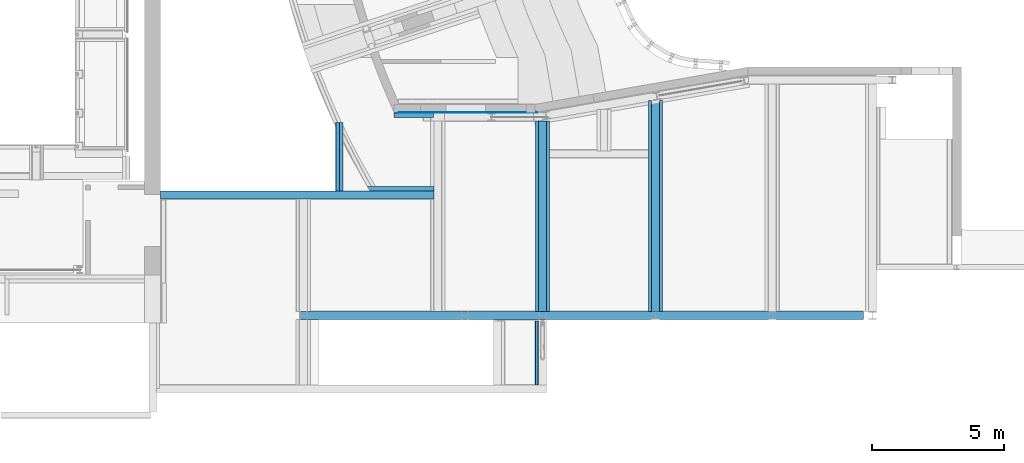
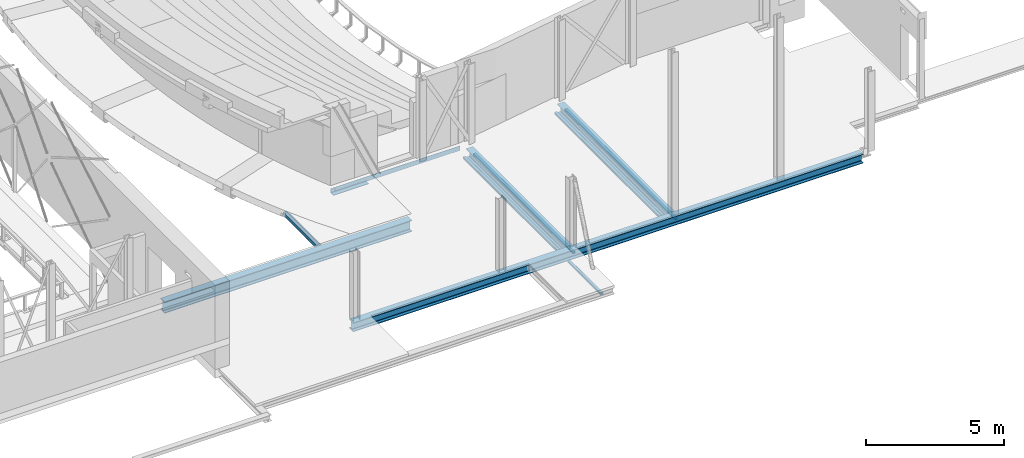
# One storey, part 23 of 68: 12 beams.
"""IFC2X3 building model written with IfcOpenShell, lengths in millimetres."""

import ifcopenshell
import ifcopenshell.guid

model = None  # the IFC model being written
_history = None  # IfcOwnerHistory: only IFC2X3 demands one
_inside = {}  # id of a spatial element -> (the spatial element, [elements in it])
_under = {}  # id of a project, library or spatial element -> (it, [spatial elements below it])
_declared = {}  # id of a project -> (the project, [libraries it declares])
_typed = {}  # id of a type object -> (the type object, [elements of that type])
_made_of = {}  # id of a material, layer set ... -> (it, [elements and type objects made of it])


def new_model(schema):
    """Start an empty IFC model of exactly this schema.

    Asked for "IFC4X3", IfcOpenShell would pick the latest addendum, in which some entities
    have other attributes; the version numbers below select the first issue.
    IFC2X3 requires an IfcOwnerHistory on every rooted entity: one is made here for all.
    """
    global model, _history
    if schema == "IFC4X3":
        model = ifcopenshell.file(schema_version=(4, 3, 0, 0))
    else:
        model = ifcopenshell.file(schema=schema)
    _inside.clear()
    _under.clear()
    _declared.clear()
    _typed.clear()
    _made_of.clear()
    _history = None
    if model.schema == "IFC2X3":
        org = make("IfcOrganization", Name="unknown")
        user = make(
            "IfcPersonAndOrganization",
            ThePerson=make("IfcPerson", FamilyName="unknown"),
            TheOrganization=org,
        )
        app = make(
            "IfcApplication",
            ApplicationDeveloper=org,
            Version="unknown",
            ApplicationFullName="unknown",
            ApplicationIdentifier="unknown",
        )
        _history = make(
            "IfcOwnerHistory",
            OwningUser=user,
            OwningApplication=app,
            ChangeAction="ADDED",
            CreationDate=0,
        )
    return model


def make(cls, **values):
    """One entity of the class cls with the attributes given. An attribute that is None is left unset."""
    return model.create_entity(
        cls, **{name: value for name, value in values.items() if value is not None}
    )


def entity(cls, *values):
    """Any entity or typed value of the class cls, its attributes in the order of the schema. None: left unset."""
    e = model.create_entity(cls)
    for i, value in enumerate(values):
        if value is not None:
            e[i] = value
    return e


def rooted(cls, **values):
    """An entity with a GlobalId (a new one), such as an element, a storey or a relation."""
    return make(cls, GlobalId=ifcopenshell.guid.new(), OwnerHistory=_history, **values)


def si_unit(unit_type, name, prefix=None):
    """IfcSIUnit, for example si_unit("LENGTHUNIT", "METRE", prefix="MILLI")."""
    return make("IfcSIUnit", UnitType=unit_type, Prefix=prefix, Name=name)


def converted_unit(unit_type, name, factor, base, dimensions=None, offset=None):
    """IfcConversionBasedUnit, such as the inch: factor (a typed value) times the base unit."""
    return make(
        "IfcConversionBasedUnit"
        if offset is None
        else "IfcConversionBasedUnitWithOffset",
        ConversionOffset=offset,
        Dimensions=None
        if dimensions is None
        else entity("IfcDimensionalExponents", *dimensions),
        UnitType=unit_type,
        Name=name,
        ConversionFactor=make(
            "IfcMeasureWithUnit", ValueComponent=factor, UnitComponent=base
        ),
    )


def derived_unit(unit_type, elements):
    """IfcDerivedUnit: a product of units, each with its exponent."""
    return make(
        "IfcDerivedUnit",
        Elements=[
            make("IfcDerivedUnitElement", Unit=unit, Exponent=power)
            for unit, power in elements
        ],
        UnitType=unit_type,
    )


def assignment(units):
    """IfcUnitAssignment: the units of a project."""
    return None if units is None else make("IfcUnitAssignment", Units=units)


def point(xyz):
    """IfcCartesianPoint."""
    return None if xyz is None else make("IfcCartesianPoint", Coordinates=xyz)


def direction(xyz):
    """IfcDirection."""
    return None if xyz is None else make("IfcDirection", DirectionRatios=xyz)


def frame(location, z_axis=None, x_axis=None):
    """IfcAxis2Placement3D, a coordinate frame: its origin and axes. An axis left out is left unset."""
    return make(
        "IfcAxis2Placement3D",
        Location=point(location),
        Axis=direction(z_axis),
        RefDirection=direction(x_axis),
    )


def frame_2d(location, x_axis=None):
    """IfcAxis2Placement2D, a coordinate frame in the plane: its origin and x axis."""
    return make(
        "IfcAxis2Placement2D", Location=point(location), RefDirection=direction(x_axis)
    )


def origin():
    """The frame at (0, 0, 0) with its axes left unset."""
    return frame((0.0, 0.0, 0.0))


def origin_2d_with_axis():
    """The frame at (0, 0) in the plane with the x axis (1, 0) written out."""
    return frame_2d((0.0, 0.0), x_axis=(1.0, 0.0))


def place(relative_to, where):
    """IfcLocalPlacement: puts the frame where relative to a parent placement (None: the world)."""
    return make(
        "IfcLocalPlacement", PlacementRelTo=relative_to, RelativePlacement=where
    )


def context(
    kind, dimensions, precision=None, world=None, true_north=None, identifier=None
):
    """IfcGeometricRepresentationContext, for example the 3D "Model" context."""
    return make(
        "IfcGeometricRepresentationContext",
        ContextIdentifier=identifier,
        ContextType=kind,
        CoordinateSpaceDimension=dimensions,
        Precision=precision,
        WorldCoordinateSystem=world,
        TrueNorth=true_north,
    )


def subcontext(parent, identifier, kind, view, scale=None):
    """IfcGeometricRepresentationSubContext, for example "Body" below "Model"."""
    return make(
        "IfcGeometricRepresentationSubContext",
        ContextIdentifier=identifier,
        ContextType=kind,
        ParentContext=parent,
        TargetScale=scale,
        TargetView=view,
    )


def project(units=None, contexts=None):
    """IfcProject with its units and contexts."""
    return rooted(
        "IfcProject",
        Name="project",
        RepresentationContexts=contexts,
        UnitsInContext=assignment(units),
    )


def spatial(cls, under=None, at=None, **own):
    """A site, building, storey or space (cls), placed at a placement, below another one or the project."""
    s = rooted(cls, ObjectPlacement=at, **own)
    if under is not None:
        _under.setdefault(under.id(), (under, []))[1].append(s)
    return s


def polyline(points):
    """IfcPolyline through the points."""
    return make("IfcPolyline", Points=[point(p) for p in points])


def circle_curve(where, radius):
    """IfcCircle in the frame where."""
    return make("IfcCircle", Position=where, Radius=radius)


def parameter(value):
    """IfcParameterValue: where a trimmed curve begins or ends, as a parameter of its basis curve."""
    return model.create_entity("IfcParameterValue", value)


def trimmed(basis, trim1, trim2, sense, master):
    """IfcTrimmedCurve: the piece of a basis curve between two trims."""
    return make(
        "IfcTrimmedCurve",
        BasisCurve=basis,
        Trim1=trim1,
        Trim2=trim2,
        SenseAgreement=sense,
        MasterRepresentation=master,
    )


def segment(curve, same_sense, transition):
    """IfcCompositeCurveSegment."""
    return make(
        "IfcCompositeCurveSegment",
        Transition=transition,
        SameSense=same_sense,
        ParentCurve=curve,
    )


def composite_curve(segments, self_intersect=None):
    """IfcCompositeCurve: segments joined end to end."""
    return make("IfcCompositeCurve", Segments=segments, SelfIntersect=self_intersect)


def profile(cls, at=None, kind="AREA", **sizes):
    """A parametric profile (cls). Its sizes go by their IFC names, for example OverallWidth=200.0."""
    return make(cls, ProfileType=kind, Position=at, **sizes)


def rectangle(**sizes):
    """IfcRectangleProfileDef."""
    return profile("IfcRectangleProfileDef", **sizes)


def i_section(**sizes):
    """IfcIShapeProfileDef."""
    return profile("IfcIShapeProfileDef", **sizes)


def outline(outer, holes=None, kind="AREA"):
    """IfcArbitraryClosedProfileDef: a profile drawn as a closed curve; with holes, ...WithVoids."""
    if holes is None:
        return make("IfcArbitraryClosedProfileDef", ProfileType=kind, OuterCurve=outer)
    return make(
        "IfcArbitraryProfileDefWithVoids",
        ProfileType=kind,
        OuterCurve=outer,
        InnerCurves=holes,
    )


def extrude(swept, where, along, depth):
    """IfcExtrudedAreaSolid: the profile swept, set in the frame where, extruded along a direction by depth."""
    return make(
        "IfcExtrudedAreaSolid",
        SweptArea=swept,
        Position=where,
        ExtrudedDirection=direction(along),
        Depth=depth,
    )


def shape(context_of_items, identifier, shape_type, items):
    """IfcShapeRepresentation: the items that make up one representation, for example the "Body"."""
    return make(
        "IfcShapeRepresentation",
        ContextOfItems=context_of_items,
        RepresentationIdentifier=identifier,
        RepresentationType=shape_type,
        Items=items,
    )


def source(mapping_origin, context_of_items, identifier, shape_type, items):
    """IfcRepresentationMap: a shape defined once, which mapped items show again and again."""
    return make(
        "IfcRepresentationMap",
        MappingOrigin=mapping_origin,
        MappedRepresentation=shape(context_of_items, identifier, shape_type, items),
    )


def transform(
    local_origin,
    x_axis=None,
    y_axis=None,
    z_axis=None,
    scale=None,
    scale2=None,
    scale3=None,
    uniform=True,
):
    """IfcCartesianTransformationOperator3D, or its non-uniform kind. x_axis, y_axis, z_axis: its Axis1, 2, 3."""
    if uniform:
        return make(
            "IfcCartesianTransformationOperator3D",
            Axis1=direction(x_axis),
            Axis2=direction(y_axis),
            LocalOrigin=point(local_origin),
            Scale=scale,
            Axis3=direction(z_axis),
        )
    return make(
        "IfcCartesianTransformationOperator3DnonUniform",
        Axis1=direction(x_axis),
        Axis2=direction(y_axis),
        LocalOrigin=point(local_origin),
        Scale=scale,
        Axis3=direction(z_axis),
        Scale2=scale2,
        Scale3=scale3,
    )


def mapped(mapping_source, mapping_target):
    """IfcMappedItem: shows the shape of a source again, moved by a transform."""
    return make(
        "IfcMappedItem", MappingSource=mapping_source, MappingTarget=mapping_target
    )


def material(Name=None, Category=None):
    """IfcMaterial."""
    return make("IfcMaterial", Name=Name, Category=Category)


def material_list(materials):
    """IfcMaterialList."""
    return make("IfcMaterialList", Materials=materials)


def made_of(thing, what):
    """Note that an element or type object is made of a material, layer set ...; save() writes the relation."""
    if what is not None:
        _made_of.setdefault(what.id(), (what, []))[1].append(thing)
    return thing


def type_object(cls, material=None, **own):
    """A type object (cls), such as IfcWallType, which elements share."""
    return made_of(rooted(cls, **own), material)


def type_shapes(of_type, sources):
    """Give a type object the sources (RepresentationMaps) that its elements show as mapped items."""
    of_type.RepresentationMaps = sources


def element(
    cls,
    number,
    at=None,
    inside=None,
    cuts=None,
    type_object=None,
    material=None,
    context=None,
    identifier="Body",
    shape_type=None,
    held_by="IfcProductDefinitionShape",
    body=None,
    shapes=None,
    **own,
):
    """One element of the class cls, such as IfcWall. Its Tag is "e" and its number.

    at: its placement. inside: the storey or other place that contains it. cuts: it is an
    opening in that element (IfcRelVoidsElement). A single representation is given by context,
    identifier, shape_type and body (its items); several are given by shapes. held_by: the class
    of the entity that holds the representations. save() writes the other relations.
    """
    e = rooted(cls, Tag="e%d" % number, ObjectPlacement=at, **own)
    if body is not None:
        shapes = [shape(context, identifier, shape_type, body)]
    if shapes is not None:
        e.Representation = make(held_by, Representations=shapes)
    if inside is not None:
        _inside.setdefault(inside.id(), (inside, []))[1].append(e)
    if cuts is not None:
        rooted(
            "IfcRelVoidsElement", RelatingBuildingElement=cuts, RelatedOpeningElement=e
        )
    if type_object is not None:
        _typed.setdefault(type_object.id(), (type_object, []))[1].append(e)
    return made_of(e, material)


def aggregate(whole, parts):
    """IfcRelAggregates: a whole, such as a stair, and the parts it consists of."""
    return rooted("IfcRelAggregates", RelatingObject=whole, RelatedObjects=parts)


def save(model, path):
    """Write the relations noted so far, then the file.

    IfcRelAggregates (storeys below a building ...), IfcRelContainedInSpatialStructure (elements
    in a storey), IfcRelDefinesByType, IfcRelAssociatesMaterial and IfcRelDeclares: one each for
    every whole, place, type object, material and project.
    """
    for whole, parts in _under.values():
        aggregate(whole, parts)
    for where, things in _inside.values():
        rooted(
            "IfcRelContainedInSpatialStructure",
            RelatedElements=things,
            RelatingStructure=where,
        )
    for kind, things in _typed.values():
        rooted("IfcRelDefinesByType", RelatedObjects=things, RelatingType=kind)
    for what, things in _made_of.values():
        rooted("IfcRelAssociatesMaterial", RelatedObjects=things, RelatingMaterial=what)
    for by, libraries in _declared.values():
        rooted("IfcRelDeclares", RelatingContext=by, RelatedDefinitions=libraries)
    model.write(path)


model = new_model("IFC2X3")

# Units and contexts
model_context = context("Model", 3, precision=0.01, world=origin(), true_north=direction((6.12303176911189e-17, 1.0)))
body_context = subcontext(model_context, "Body", "Model", "MODEL_VIEW")
ifc_project = project(units=[si_unit("LENGTHUNIT", "METRE", prefix="MILLI"), si_unit("AREAUNIT", "SQUARE_METRE", prefix="MILLI"), si_unit("VOLUMEUNIT", "CUBIC_METRE"), converted_unit("PLANEANGLEUNIT", "DEGREE", entity("IfcRatioMeasure", 0.0174532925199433), si_unit("PLANEANGLEUNIT", "RADIAN"), dimensions=[0, 0, 0, 0, 0, 0, 0]), si_unit("MASSUNIT", "GRAM", prefix="KILO"), derived_unit("MASSDENSITYUNIT", [(si_unit("MASSUNIT", "GRAM", prefix="KILO"), 1), (si_unit("LENGTHUNIT", "METRE"), -3)]), derived_unit("MOMENTOFINERTIAUNIT", [(si_unit("LENGTHUNIT", "METRE"), 4)]), si_unit("TIMEUNIT", "SECOND"), si_unit("FREQUENCYUNIT", "HERTZ"), si_unit("THERMODYNAMICTEMPERATUREUNIT", "DEGREE_CELSIUS"), derived_unit("THERMALTRANSMITTANCEUNIT", [(si_unit("MASSUNIT", "GRAM", prefix="KILO"), 1), (si_unit("THERMODYNAMICTEMPERATUREUNIT", "KELVIN"), -1), (si_unit("TIMEUNIT", "SECOND"), -3)]), derived_unit("VOLUMETRICFLOWRATEUNIT", [(si_unit("LENGTHUNIT", "METRE"), 3), (si_unit("TIMEUNIT", "SECOND"), -1)]), si_unit("ELECTRICCURRENTUNIT", "AMPERE"), si_unit("ELECTRICVOLTAGEUNIT", "VOLT"), si_unit("POWERUNIT", "WATT"), si_unit("FORCEUNIT", "NEWTON", prefix="KILO"), si_unit("ILLUMINANCEUNIT", "LUX"), si_unit("LUMINOUSFLUXUNIT", "LUMEN"), si_unit("LUMINOUSINTENSITYUNIT", "CANDELA"), derived_unit("USERDEFINED", [(si_unit("MASSUNIT", "GRAM", prefix="KILO"), -1), (si_unit("LENGTHUNIT", "METRE"), -2), (si_unit("TIMEUNIT", "SECOND"), 3), (si_unit("LUMINOUSFLUXUNIT", "LUMEN"), 1)]), derived_unit("LINEARVELOCITYUNIT", [(si_unit("LENGTHUNIT", "METRE"), 1), (si_unit("TIMEUNIT", "SECOND"), -1)]), si_unit("PRESSUREUNIT", "PASCAL"), derived_unit("USERDEFINED", [(si_unit("LENGTHUNIT", "METRE"), -2), (si_unit("MASSUNIT", "GRAM", prefix="KILO"), 1), (si_unit("TIMEUNIT", "SECOND"), -2)]), derived_unit("LINEARFORCEUNIT", [(si_unit("MASSUNIT", "GRAM", prefix="KILO"), 1), (si_unit("LENGTHUNIT", "METRE"), 1), (si_unit("TIMEUNIT", "SECOND"), -2), (si_unit("LENGTHUNIT", "METRE"), -1)]), derived_unit("PLANARFORCEUNIT", [(si_unit("MASSUNIT", "GRAM", prefix="KILO"), 1), (si_unit("LENGTHUNIT", "METRE"), 1), (si_unit("TIMEUNIT", "SECOND"), -2), (si_unit("LENGTHUNIT", "METRE"), -2)])], contexts=[model_context])

# Site, building, storey
site_placement = place(None, origin())
site = spatial("IfcSite", under=ifc_project, at=site_placement, Name="Theater aan de Parade", CompositionType="ELEMENT")
building_placement = place(site_placement, origin())
building = spatial("IfcBuilding", under=site, at=building_placement, Name="Theater aan de Parade", CompositionType="ELEMENT")
storey_placement = place(building_placement, frame((0.0, 0.0, 8750.0)))
storey = spatial("IfcBuildingStorey", under=building, at=storey_placement, Name="02 tweede verdieping", CompositionType="ELEMENT", Elevation=8750.0)

# Beams
ifc_material_1 = material(Name="00_PBT_MAT_staal_S355")
beam_type_1 = type_object("IfcBeamType", Name="28_PBT_SF_staal_H-profiel (void):S355_HE400B", PredefinedType="NOTDEFINED")
beam_1_placement = place(storey_placement, frame((42694.5520755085, 12955.0, -340.0)))
element("IfcBeam", 1, at=beam_1_placement, inside=storey, type_object=beam_type_1, material=ifc_material_1, Name="28_PBT_SF_staal_H-profiel (void):S355_HE400B", ObjectType="28_PBT_SF_staal_H-profiel (void):S355_HE400B", context=body_context, shape_type="SweptSolid", body=[
    extrude(i_section(OverallWidth=300.000000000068, OverallDepth=400.0, WebThickness=13.4999999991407, FlangeThickness=23.9999999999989, FilletRadius=27.0000000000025, at=frame_2d((0.0, 0.0), x_axis=(0.0, 1.0))), frame((0.0, 0.0, 0.0), z_axis=(1.0, 0.0, 0.0), x_axis=(0.0, 0.0, -1.0)), (0.0, 0.0, 1.0), 21300.0),
])
ifc_material_2 = material(Name="00_PBT_MAT_Lucht")
ifc_material_list_1 = material_list([ifc_material_2, ifc_material_1])
beam_type_2 = type_object("IfcBeamType", Name="28_PBT_SF_staal_H-profiel_met_oplegstrippen (void):S355_HE500B + oplegstrip_d=12_vloer=300", PredefinedType="BEAM", material=ifc_material_list_1)
shared_shape_1 = source(origin(), body_context, "Body", "SweptSolid", [
    extrude(outline(composite_curve([segment(polyline([(222.0, -150.0), (250.0, -150.0)]), True, "CONTINUOUS"), segment(polyline([(250.0, -150.0), (250.0, 150.0)]), True, "CONTINUOUS"), segment(polyline([(250.0, 150.0), (222.0, 150.0)]), True, "CONTINUOUS"), segment(polyline([(222.0, 150.0), (222.0, 34.2500000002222)]), True, "CONTINUOUS"), segment(trimmed(circle_curve(frame_2d((195.0, 34.250000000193), x_axis=(1.0, 0.0)), 27.0000000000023), [parameter(270.000000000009)], [parameter(0.0)], True, "PARAMETER"), False, "CONTINUOUS"), segment(polyline([(195.0, 7.25000000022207), (-195.0, 7.24999999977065)]), True, "CONTINUOUS"), segment(trimmed(circle_curve(frame_2d((-195.0, 34.2499999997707), x_axis=(0.0, -1.0)), 27.0000000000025), [parameter(270.000000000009)], [parameter(0.0)], True, "PARAMETER"), False, "CONTINUOUS"), segment(polyline([(-222.0, 34.2499999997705), (-222.0, 150.0)]), True, "CONTINUOUS"), segment(polyline([(-222.0, 150.0), (-250.0, 150.0)]), True, "CONTINUOUS"), segment(polyline([(-250.0, 150.0), (-250.0, -150.0)]), True, "CONTINUOUS"), segment(polyline([(-250.0, -150.0), (-222.0, -150.0)]), True, "CONTINUOUS"), segment(polyline([(-222.0, -150.0), (-222.0, -34.2500000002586)]), True, "CONTINUOUS"), segment(trimmed(circle_curve(frame_2d((-195.0, -34.250000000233), x_axis=(-1.0, 0.0)), 27.0000000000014), [parameter(270.000000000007)], [parameter(0.0)], True, "PARAMETER"), False, "CONTINUOUS"), segment(polyline([(-195.0, -7.25000000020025), (195.0, -7.24999999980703)]), True, "CONTINUOUS"), segment(trimmed(circle_curve(frame_2d((195.0, -34.2499999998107), x_axis=(0.0, 1.0)), 27.0000000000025), [parameter(270.000000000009)], [parameter(0.0)], True, "PARAMETER"), False, "CONTINUOUS"), segment(polyline([(222.0, -34.2499999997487), (222.0, -150.0)]), True, "CONTINUOUS")], self_intersect=False)), frame((47773.8581300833, 17500.244375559, 8360.0), z_axis=(-1.0, 0.0, 0.0), x_axis=(0.0, 0.0, -1.0)), (0.0, 0.0, 1.0), 10320.0),
    extrude(rectangle(XDim=11.9999999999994, YDim=320.000000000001, at=frame_2d((0.0, -1.08286712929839e-11), x_axis=(1.0, 0.0))), frame((47773.8581300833, 17667.494375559, 8364.0), z_axis=(-1.0, 0.0, 0.0), x_axis=(0.0, 0.0, -1.0)), (0.0, 0.0, 1.0), 3704.99999999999),
])
type_shapes(beam_type_2, [shared_shape_1])
beam_2_placement = place(storey_placement, frame((0.0, 0.0, -8750.0)))
element("IfcBeam", 2, at=beam_2_placement, inside=storey, type_object=beam_type_2, material=ifc_material_1, Name="28_PBT_SF_staal_H-profiel_met_oplegstrippen (void):S355_HE500B + oplegstrip_d=12_vloer=300", ObjectType="28_PBT_SF_staal_H-profiel_met_oplegstrippen (void):S355_HE500B + oplegstrip_d=12_vloer=300", context=body_context, shape_type="MappedRepresentation", body=[
    mapped(shared_shape_1, transform((0.0, 0.0, 0.0), scale=1.0)),
])
beam_type_3 = type_object("IfcBeamType", Name="28_PBT_SF_staal_L-profiel:S355_L200x200x20", PredefinedType="NOTDEFINED")
beam_3_placement = place(storey_placement, frame((46271.4115208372, 20573.1999999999, 0.0)))
element("IfcBeam", 3, at=beam_3_placement, inside=storey, type_object=beam_type_3, material=ifc_material_1, Name="28_PBT_SF_staal_L-profiel:S355_L200x200x20", ObjectType="28_PBT_SF_staal_L-profiel:S355_L200x200x20", context=body_context, shape_type="SweptSolid", body=[
    extrude(outline(composite_curve([segment(polyline([(64.5555555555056, -124.444444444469), (75.5555555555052, -124.444444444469)]), True, "CONTINUOUS"), segment(polyline([(75.5555555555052, -124.444444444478), (75.555555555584, 75.5555555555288)]), True, "CONTINUOUS"), segment(polyline([(75.555555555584, 75.5555555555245), (-124.444444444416, 75.5555555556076)]), True, "CONTINUOUS"), segment(polyline([(-124.444444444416, 75.5555555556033), (-124.44444444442, 64.5555555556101)]), True, "CONTINUOUS"), segment(trimmed(circle_curve(frame_2d((-115.444444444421, 64.5555555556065), x_axis=(-1.0, 0.0)), 8.99999999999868), [parameter(0.0)], [parameter(90.000000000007)], True, "PARAMETER"), True, "CONTINUOUS"), segment(polyline([(-115.444444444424, 55.5555555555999), (37.5555555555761, 55.555555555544)]), True, "CONTINUOUS"), segment(trimmed(circle_curve(frame_2d((37.5555555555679, 37.5555555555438), x_axis=(0.0, 1.0)), 18.0000000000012), [parameter(270.000000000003)], [parameter(0.0)], True, "PARAMETER"), False, "CONTINUOUS"), segment(polyline([(55.5555555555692, 37.5555555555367), (55.555555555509, -115.444444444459)]), True, "CONTINUOUS"), segment(trimmed(circle_curve(frame_2d((64.555555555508, -115.444444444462), x_axis=(-1.0, 0.0)), 8.99999999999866), [parameter(0.0)], [parameter(90.000000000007)], True, "PARAMETER"), True, "CONTINUOUS")], self_intersect=False)), frame((0.0, -18.7555555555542, -324.444444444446), z_axis=(1.0, 0.0, 0.0), x_axis=(0.0, 0.0, -1.0)), (0.0, 0.0, 1.0), 1480.00000000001),
])
ifc_material_list_2 = material_list([ifc_material_1, ifc_material_1])
ifc_material_list_3 = material_list([ifc_material_1, ifc_material_1])
beam_type_4 = type_object("IfcBeamType", Name="28_PBT_SF_staal_koker_met_ondergelaste_strip:S355_K150x150x10 + ondergelaste strip", PredefinedType="BEAM", material=ifc_material_list_3)
shared_shape_2 = source(origin(), body_context, "Body", "SweptSolid", [
    extrude(outline(composite_curve([segment(polyline([(-60.0, -75.0), (60.0, -75.0)]), True, "CONTINUOUS"), segment(trimmed(circle_curve(frame_2d((60.0, -60.0), x_axis=(0.0, 1.0)), 15.0), [parameter(180.0)], [parameter(270.0)], True, "PARAMETER"), True, "CONTINUOUS"), segment(polyline([(75.0, -60.0), (75.0, 60.0)]), True, "CONTINUOUS"), segment(trimmed(circle_curve(frame_2d((60.0, 60.0), x_axis=(0.0, 1.0)), 15.0), [parameter(270.0)], [parameter(360.0)], True, "PARAMETER"), True, "CONTINUOUS"), segment(polyline([(60.0, 75.0), (-60.0, 75.0)]), True, "CONTINUOUS"), segment(trimmed(circle_curve(frame_2d((-60.0, 60.0), x_axis=(0.0, 1.0)), 15.0), [parameter(0.0)], [parameter(90.0000000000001)], True, "PARAMETER"), True, "CONTINUOUS"), segment(polyline([(-75.0, 60.0), (-75.0, -60.0)]), True, "CONTINUOUS"), segment(trimmed(circle_curve(frame_2d((-60.0, -60.0), x_axis=(0.0, 1.0)), 15.0), [parameter(90.0)], [parameter(180.0)], True, "PARAMETER"), True, "CONTINUOUS")], self_intersect=False), holes=[composite_curve([segment(polyline([(65.0, 55.0), (65.0, -55.0)]), True, "CONTINUOUS"), segment(trimmed(circle_curve(frame_2d((55.0, -55.0), x_axis=(0.0, 1.0)), 10.0), [parameter(180.0)], [parameter(270.0)], True, "PARAMETER"), False, "CONTINUOUS"), segment(polyline([(55.0, -65.0), (-55.0, -65.0)]), True, "CONTINUOUS"), segment(trimmed(circle_curve(frame_2d((-55.0, -55.0), x_axis=(0.0, 1.0)), 10.0), [parameter(90.0)], [parameter(180.0)], True, "PARAMETER"), False, "CONTINUOUS"), segment(polyline([(-65.0, -55.0), (-65.0, 55.0)]), True, "CONTINUOUS"), segment(trimmed(circle_curve(frame_2d((-55.0, 55.0), x_axis=(0.0, 1.0)), 10.0), [parameter(4.07110999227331e-13)], [parameter(90.0000000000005)], True, "PARAMETER"), False, "CONTINUOUS"), segment(polyline([(-55.0, 65.0), (55.0, 65.0)]), True, "CONTINUOUS"), segment(trimmed(circle_curve(frame_2d((55.0, 55.0), x_axis=(0.0, 1.0)), 10.0), [parameter(270.0)], [parameter(0.0)], True, "PARAMETER"), False, "CONTINUOUS")], self_intersect=False)]), frame((44143.4604191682, 17650.244375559, 8445.0), z_axis=(0.0, 1.0, 0.0), x_axis=(0.0, 0.0, 1.0)), (0.0, 0.0, 1.0), 2590.80963539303),
    extrude(rectangle(XDim=9.99999999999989, YDim=2590.80963539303, at=frame_2d((1.13686837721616e-12, 0.0), x_axis=(0.0, 1.0))), frame((44068.4604191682, 18945.6491932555, 8365.0), z_axis=(1.0, 0.0, 0.0), x_axis=(0.0, -1.0, 0.0)), (0.0, 0.0, 1.0), 274.999999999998),
])
type_shapes(beam_type_4, [shared_shape_2])
beam_4_placement = place(storey_placement, frame((0.0, 0.0, -8750.0)))
element("IfcBeam", 4, at=beam_4_placement, inside=storey, type_object=beam_type_4, material=ifc_material_list_2, Name="28_PBT_SF_staal_koker_met_ondergelaste_strip:S355_K150x150x10 + ondergelaste strip", ObjectType="28_PBT_SF_staal_koker_met_ondergelaste_strip:S355_K150x150x10 + ondergelaste strip", context=body_context, shape_type="MappedRepresentation", body=[
    mapped(shared_shape_2, transform((0.0, 0.0, 0.0), scale=1.0)),
])
ifc_material_3 = material(Name="00_PBT_MAT_staal_S235")
beam_type_5 = type_object("IfcBeamType", Name="28_PBT_SF_staal_koker:S235_K80x120x6.3", PredefinedType="NOTDEFINED")
beam_5_placement = place(storey_placement, frame((51600.3051596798, 10337.0, 0.0), z_axis=(0.0, 0.0, 1.0), x_axis=(0.0, 1.0, 0.0)))
element("IfcBeam", 5, at=beam_5_placement, inside=storey, type_object=beam_type_5, material=ifc_material_3, Name="28_PBT_SF_staal_koker:S235_K80x120x6.3", ObjectType="28_PBT_SF_staal_koker:S235_K80x120x6.3", context=body_context, shape_type="SweptSolid", body=[
    extrude(outline(composite_curve([segment(trimmed(circle_curve(frame_2d((-50.5500000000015, -30.5499999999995), x_axis=(1.0, 0.0)), 9.45), [parameter(180.0)], [parameter(270.0)], True, "PARAMETER"), True, "CONTINUOUS"), segment(polyline([(-50.5500000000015, -40.0), (50.5500000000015, -40.0)]), True, "CONTINUOUS"), segment(trimmed(circle_curve(frame_2d((50.5500000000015, -30.5499999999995), x_axis=(1.0, 0.0)), 9.45), [parameter(270.0)], [parameter(0.0)], True, "PARAMETER"), True, "CONTINUOUS"), segment(polyline([(60.0, -30.5499999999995), (60.0, 30.5500000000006)]), True, "CONTINUOUS"), segment(trimmed(circle_curve(frame_2d((50.5500000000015, 30.5500000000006), x_axis=(1.0, 0.0)), 9.45), [parameter(3.56222124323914e-13)], [parameter(90.0000000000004)], True, "PARAMETER"), True, "CONTINUOUS"), segment(polyline([(50.5500000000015, 40.0), (-50.5500000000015, 40.0)]), True, "CONTINUOUS"), segment(trimmed(circle_curve(frame_2d((-50.5500000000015, 30.5500000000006), x_axis=(1.0, 0.0)), 9.45), [parameter(90.0000000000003)], [parameter(180.0)], True, "PARAMETER"), True, "CONTINUOUS"), segment(polyline([(-60.0, 30.5500000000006), (-60.0, -30.5499999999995)]), True, "CONTINUOUS")], self_intersect=False), holes=[composite_curve([segment(trimmed(circle_curve(frame_2d((47.3999999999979, 27.4000000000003), x_axis=(1.0, 0.0)), 6.3), [parameter(5.08888749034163e-14)], [parameter(90.0000000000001)], True, "PARAMETER"), False, "CONTINUOUS"), segment(polyline([(53.6999999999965, 27.4000000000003), (53.6999999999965, -27.3999999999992)]), True, "CONTINUOUS"), segment(trimmed(circle_curve(frame_2d((47.3999999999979, -27.3999999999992), x_axis=(1.0, 0.0)), 6.3), [parameter(269.999999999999)], [parameter(360.0)], True, "PARAMETER"), False, "CONTINUOUS"), segment(polyline([(47.3999999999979, -33.6999999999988), (-47.3999999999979, -33.6999999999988)]), True, "CONTINUOUS"), segment(trimmed(circle_curve(frame_2d((-47.3999999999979, -27.3999999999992), x_axis=(1.0, 0.0)), 6.3), [parameter(180.0)], [parameter(270.0)], True, "PARAMETER"), False, "CONTINUOUS"), segment(polyline([(-53.6999999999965, -27.3999999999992), (-53.6999999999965, 27.4000000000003)]), True, "CONTINUOUS"), segment(trimmed(circle_curve(frame_2d((-47.3999999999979, 27.4000000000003), x_axis=(1.0, 0.0)), 6.3), [parameter(89.9999999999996)], [parameter(180.0)], True, "PARAMETER"), False, "CONTINUOUS"), segment(polyline([(-47.3999999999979, 33.700000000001), (47.3999999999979, 33.700000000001)]), True, "CONTINUOUS")], self_intersect=False)]), frame((0.0, -60.0, -505.0), z_axis=(1.0, 0.0, 0.0), x_axis=(0.0, 1.0, 0.0)), (0.0, 0.0, 1.0), 2412.99999999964),
])
beam_6_placement = place(storey_placement, frame((55869.5520755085, 21082.521502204, 0.0), z_axis=(0.0, 0.0, 1.0), x_axis=(0.0, -1.0, 0.0)))
element("IfcBeam", 6, at=beam_6_placement, inside=storey, type_object=beam_type_5, material=ifc_material_3, Name="28_PBT_SF_staal_koker:S235_K80x120x6.3", ObjectType="28_PBT_SF_staal_koker:S235_K80x120x6.3", context=body_context, shape_type="SweptSolid", body=[
    extrude(outline(composite_curve([segment(polyline([(-30.5499999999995, -60.0), (30.5500000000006, -60.0)]), True, "CONTINUOUS"), segment(trimmed(circle_curve(frame_2d((30.5500000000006, -50.5500000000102), x_axis=(0.0, 1.0)), 9.45), [parameter(180.0)], [parameter(270.0)], True, "PARAMETER"), True, "CONTINUOUS"), segment(polyline([(40.0, -50.5500000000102), (40.0, 50.5499999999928)]), True, "CONTINUOUS"), segment(trimmed(circle_curve(frame_2d((30.5500000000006, 50.5499999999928), x_axis=(0.0, 1.0)), 9.45), [parameter(270.0)], [parameter(360.0)], True, "PARAMETER"), True, "CONTINUOUS"), segment(polyline([(30.5500000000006, 60.0), (-30.5499999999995, 60.0)]), True, "CONTINUOUS"), segment(trimmed(circle_curve(frame_2d((-30.5499999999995, 50.5499999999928), x_axis=(0.0, 1.0)), 9.45), [parameter(0.0)], [parameter(90.0000000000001)], True, "PARAMETER"), True, "CONTINUOUS"), segment(polyline([(-40.0, 50.5499999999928), (-40.0, -50.5500000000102)]), True, "CONTINUOUS"), segment(trimmed(circle_curve(frame_2d((-30.5499999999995, -50.5500000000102), x_axis=(0.0, 1.0)), 9.45), [parameter(90.0)], [parameter(180.0)], True, "PARAMETER"), True, "CONTINUOUS")], self_intersect=False), holes=[composite_curve([segment(polyline([(33.700000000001, 47.3999999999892), (33.700000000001, -47.4000000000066)]), True, "CONTINUOUS"), segment(trimmed(circle_curve(frame_2d((27.4000000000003, -47.4000000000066), x_axis=(0.0, 1.0)), 6.3), [parameter(180.0)], [parameter(270.0)], True, "PARAMETER"), False, "CONTINUOUS"), segment(polyline([(27.4000000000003, -53.7000000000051), (-27.3999999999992, -53.7000000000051)]), True, "CONTINUOUS"), segment(trimmed(circle_curve(frame_2d((-27.3999999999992, -47.4000000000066), x_axis=(0.0, 1.0)), 6.3), [parameter(90.0)], [parameter(180.0)], True, "PARAMETER"), False, "CONTINUOUS"), segment(polyline([(-33.6999999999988, -47.4000000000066), (-33.6999999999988, 47.3999999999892)]), True, "CONTINUOUS"), segment(trimmed(circle_curve(frame_2d((-27.3999999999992, 47.3999999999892), x_axis=(0.0, 1.0)), 6.3), [parameter(4.07110999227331e-13)], [parameter(90.0000000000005)], True, "PARAMETER"), False, "CONTINUOUS"), segment(polyline([(-27.3999999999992, 53.6999999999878), (27.4000000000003, 53.6999999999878)]), True, "CONTINUOUS"), segment(trimmed(circle_curve(frame_2d((27.4000000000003, 47.3999999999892), x_axis=(0.0, 1.0)), 6.3), [parameter(270.0)], [parameter(360.0)], True, "PARAMETER"), False, "CONTINUOUS")], self_intersect=False)]), frame((0.0, 60.0, -505.0), z_axis=(1.0, 0.0, 0.0), x_axis=(0.0, 0.0, 1.0)), (0.0, 0.0, 1.0), 7977.52150220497),
])
beam_7_placement = place(storey_placement, frame((56409.5520755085, 21082.521502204, 0.0), z_axis=(0.0, 0.0, 1.0), x_axis=(0.0, -1.0, 0.0)))
element("IfcBeam", 7, at=beam_7_placement, inside=storey, type_object=beam_type_5, material=ifc_material_3, Name="28_PBT_SF_staal_koker:S235_K80x120x6.3", ObjectType="28_PBT_SF_staal_koker:S235_K80x120x6.3", context=body_context, shape_type="SweptSolid", body=[
    extrude(outline(composite_curve([segment(trimmed(circle_curve(frame_2d((-50.5500000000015, -30.5499999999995), x_axis=(1.0, 0.0)), 9.45), [parameter(180.0)], [parameter(270.0)], True, "PARAMETER"), True, "CONTINUOUS"), segment(polyline([(-50.5500000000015, -40.0), (50.5500000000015, -40.0)]), True, "CONTINUOUS"), segment(trimmed(circle_curve(frame_2d((50.5500000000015, -30.5499999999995), x_axis=(1.0, 0.0)), 9.45), [parameter(270.0)], [parameter(0.0)], True, "PARAMETER"), True, "CONTINUOUS"), segment(polyline([(60.0, -30.5499999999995), (60.0, 30.5500000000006)]), True, "CONTINUOUS"), segment(trimmed(circle_curve(frame_2d((50.5500000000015, 30.5500000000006), x_axis=(1.0, 0.0)), 9.45), [parameter(3.56222124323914e-13)], [parameter(90.0000000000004)], True, "PARAMETER"), True, "CONTINUOUS"), segment(polyline([(50.5500000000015, 40.0), (-50.5500000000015, 40.0)]), True, "CONTINUOUS"), segment(trimmed(circle_curve(frame_2d((-50.5500000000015, 30.5500000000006), x_axis=(1.0, 0.0)), 9.45), [parameter(90.0000000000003)], [parameter(180.0)], True, "PARAMETER"), True, "CONTINUOUS"), segment(polyline([(-60.0, 30.5500000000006), (-60.0, -30.5499999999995)]), True, "CONTINUOUS")], self_intersect=False), holes=[composite_curve([segment(trimmed(circle_curve(frame_2d((47.3999999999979, 27.4000000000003), x_axis=(1.0, 0.0)), 6.3), [parameter(5.08888749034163e-14)], [parameter(90.0000000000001)], True, "PARAMETER"), False, "CONTINUOUS"), segment(polyline([(53.6999999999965, 27.4000000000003), (53.6999999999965, -27.3999999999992)]), True, "CONTINUOUS"), segment(trimmed(circle_curve(frame_2d((47.3999999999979, -27.3999999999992), x_axis=(1.0, 0.0)), 6.3), [parameter(269.999999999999)], [parameter(360.0)], True, "PARAMETER"), False, "CONTINUOUS"), segment(polyline([(47.3999999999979, -33.6999999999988), (-47.3999999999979, -33.6999999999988)]), True, "CONTINUOUS"), segment(trimmed(circle_curve(frame_2d((-47.3999999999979, -27.3999999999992), x_axis=(1.0, 0.0)), 6.3), [parameter(180.0)], [parameter(270.0)], True, "PARAMETER"), False, "CONTINUOUS"), segment(polyline([(-53.6999999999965, -27.3999999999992), (-53.6999999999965, 27.4000000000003)]), True, "CONTINUOUS"), segment(trimmed(circle_curve(frame_2d((-47.3999999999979, 27.4000000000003), x_axis=(1.0, 0.0)), 6.3), [parameter(89.9999999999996)], [parameter(180.0)], True, "PARAMETER"), False, "CONTINUOUS"), segment(polyline([(-47.3999999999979, 33.700000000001), (47.3999999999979, 33.700000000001)]), True, "CONTINUOUS")], self_intersect=False)]), frame((0.0, -60.0, -505.0), z_axis=(1.0, 0.0, 0.0), x_axis=(0.0, 1.0, 0.0)), (0.0, 0.0, 1.0), 7977.52150220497),
])
beam_8_placement = place(storey_placement, frame((51605.3051596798, 20295.0, 0.0), z_axis=(0.0, 0.0, 1.0), x_axis=(0.0, -1.0, 0.0)))
element("IfcBeam", 8, at=beam_8_placement, inside=storey, type_object=beam_type_5, material=ifc_material_3, Name="28_PBT_SF_staal_koker:S235_K80x120x6.3", ObjectType="28_PBT_SF_staal_koker:S235_K80x120x6.3", context=body_context, shape_type="SweptSolid", body=[
    extrude(outline(composite_curve([segment(polyline([(-30.5499999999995, -60.0), (30.5500000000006, -60.0)]), True, "CONTINUOUS"), segment(trimmed(circle_curve(frame_2d((30.5500000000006, -50.5500000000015), x_axis=(0.0, 1.0)), 9.45), [parameter(180.0)], [parameter(270.0)], True, "PARAMETER"), True, "CONTINUOUS"), segment(polyline([(40.0, -50.5500000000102), (40.0, 50.5499999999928)]), True, "CONTINUOUS"), segment(trimmed(circle_curve(frame_2d((30.5500000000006, 50.5500000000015), x_axis=(0.0, 1.0)), 9.45), [parameter(270.0)], [parameter(360.0)], True, "PARAMETER"), True, "CONTINUOUS"), segment(polyline([(30.5500000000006, 60.0), (-30.5499999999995, 60.0)]), True, "CONTINUOUS"), segment(trimmed(circle_curve(frame_2d((-30.5499999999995, 50.5500000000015), x_axis=(0.0, 1.0)), 9.45), [parameter(0.0)], [parameter(90.0000000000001)], True, "PARAMETER"), True, "CONTINUOUS"), segment(polyline([(-40.0, 50.5499999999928), (-40.0, -50.5500000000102)]), True, "CONTINUOUS"), segment(trimmed(circle_curve(frame_2d((-30.5499999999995, -50.5500000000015), x_axis=(0.0, 1.0)), 9.45), [parameter(90.0)], [parameter(180.0)], True, "PARAMETER"), True, "CONTINUOUS")], self_intersect=False), holes=[composite_curve([segment(polyline([(33.700000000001, 47.3999999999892), (33.700000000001, -47.4000000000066)]), True, "CONTINUOUS"), segment(trimmed(circle_curve(frame_2d((27.4000000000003, -47.3999999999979), x_axis=(0.0, 1.0)), 6.3), [parameter(180.0)], [parameter(270.0)], True, "PARAMETER"), False, "CONTINUOUS"), segment(polyline([(27.4000000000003, -53.7000000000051), (-27.3999999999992, -53.7000000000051)]), True, "CONTINUOUS"), segment(trimmed(circle_curve(frame_2d((-27.3999999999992, -47.3999999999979), x_axis=(0.0, 1.0)), 6.3), [parameter(90.0)], [parameter(180.0)], True, "PARAMETER"), False, "CONTINUOUS"), segment(polyline([(-33.6999999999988, -47.4000000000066), (-33.6999999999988, 47.3999999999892)]), True, "CONTINUOUS"), segment(trimmed(circle_curve(frame_2d((-27.3999999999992, 47.3999999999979), x_axis=(0.0, 1.0)), 6.3), [parameter(4.07110999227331e-13)], [parameter(90.0000000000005)], True, "PARAMETER"), False, "CONTINUOUS"), segment(polyline([(-27.3999999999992, 53.6999999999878), (27.4000000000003, 53.6999999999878)]), True, "CONTINUOUS"), segment(trimmed(circle_curve(frame_2d((27.4000000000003, 47.3999999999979), x_axis=(0.0, 1.0)), 6.3), [parameter(270.0)], [parameter(360.0)], True, "PARAMETER"), False, "CONTINUOUS")], self_intersect=False)]), frame((0.0, 60.0, -505.0), z_axis=(1.0, 0.0, 0.0), x_axis=(0.0, 0.0, 1.0)), (0.0, 0.0, 1.0), 7190.00000000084),
])
beam_9_placement = place(storey_placement, frame((52145.3051596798, 20295.0, 0.0), z_axis=(0.0, 0.0, 1.0), x_axis=(0.0, -1.0, 0.0)))
element("IfcBeam", 9, at=beam_9_placement, inside=storey, type_object=beam_type_5, material=ifc_material_3, Name="28_PBT_SF_staal_koker:S235_K80x120x6.3", ObjectType="28_PBT_SF_staal_koker:S235_K80x120x6.3", context=body_context, shape_type="SweptSolid", body=[
    extrude(outline(composite_curve([segment(trimmed(circle_curve(frame_2d((-50.5500000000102, -30.5499999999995), x_axis=(1.0, 0.0)), 9.45), [parameter(180.0)], [parameter(270.0)], True, "PARAMETER"), True, "CONTINUOUS"), segment(polyline([(-50.5500000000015, -40.0), (50.5500000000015, -40.0)]), True, "CONTINUOUS"), segment(trimmed(circle_curve(frame_2d((50.5499999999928, -30.5499999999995), x_axis=(1.0, 0.0)), 9.45), [parameter(270.0)], [parameter(0.0)], True, "PARAMETER"), True, "CONTINUOUS"), segment(polyline([(60.0, -30.5499999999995), (60.0, 30.5500000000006)]), True, "CONTINUOUS"), segment(trimmed(circle_curve(frame_2d((50.5499999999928, 30.5500000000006), x_axis=(1.0, 0.0)), 9.45), [parameter(3.56222124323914e-13)], [parameter(90.0000000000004)], True, "PARAMETER"), True, "CONTINUOUS"), segment(polyline([(50.5500000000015, 40.0), (-50.5500000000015, 40.0)]), True, "CONTINUOUS"), segment(trimmed(circle_curve(frame_2d((-50.5500000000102, 30.5500000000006), x_axis=(1.0, 0.0)), 9.45), [parameter(90.0000000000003)], [parameter(180.0)], True, "PARAMETER"), True, "CONTINUOUS"), segment(polyline([(-60.0, 30.5500000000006), (-60.0, -30.5499999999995)]), True, "CONTINUOUS")], self_intersect=False), holes=[composite_curve([segment(trimmed(circle_curve(frame_2d((47.3999999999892, 27.4000000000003), x_axis=(1.0, 0.0)), 6.3), [parameter(5.08888749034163e-14)], [parameter(90.0000000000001)], True, "PARAMETER"), False, "CONTINUOUS"), segment(polyline([(53.6999999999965, 27.4000000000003), (53.6999999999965, -27.3999999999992)]), True, "CONTINUOUS"), segment(trimmed(circle_curve(frame_2d((47.3999999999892, -27.3999999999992), x_axis=(1.0, 0.0)), 6.3), [parameter(269.999999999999)], [parameter(360.0)], True, "PARAMETER"), False, "CONTINUOUS"), segment(polyline([(47.3999999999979, -33.6999999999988), (-47.3999999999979, -33.6999999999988)]), True, "CONTINUOUS"), segment(trimmed(circle_curve(frame_2d((-47.4000000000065, -27.3999999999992), x_axis=(1.0, 0.0)), 6.3), [parameter(180.0)], [parameter(270.0)], True, "PARAMETER"), False, "CONTINUOUS"), segment(polyline([(-53.6999999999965, -27.3999999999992), (-53.6999999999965, 27.4000000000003)]), True, "CONTINUOUS"), segment(trimmed(circle_curve(frame_2d((-47.4000000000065, 27.4000000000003), x_axis=(1.0, 0.0)), 6.3), [parameter(89.9999999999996)], [parameter(180.0)], True, "PARAMETER"), False, "CONTINUOUS"), segment(polyline([(-47.3999999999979, 33.700000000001), (47.3999999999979, 33.700000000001)]), True, "CONTINUOUS")], self_intersect=False)]), frame((0.0, -60.0, -505.0), z_axis=(1.0, 0.0, 0.0), x_axis=(0.0, 1.0, 0.0)), (0.0, 0.0, 1.0), 7190.00000000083),
])
ifc_material_list_4 = material_list([ifc_material_1, ifc_material_2])
beam_type_6 = type_object("IfcBeamType", Name="28_PBT_SF_staal_H-profiel_met_onderplaat (void):S355_HE400B + onderplaat d=15", PredefinedType="BEAM", material=ifc_material_list_4)
shared_shape_3 = source(origin(), body_context, "Body", "SweptSolid", [
    extrude(i_section(OverallWidth=300.000000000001, OverallDepth=400.0, WebThickness=13.4999999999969, FlangeThickness=23.9999999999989, FilletRadius=27.0000000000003, at=frame_2d((-8.65441052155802e-12, 0.0), x_axis=(1.0, 0.0))), frame((56139.5520755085, 21082.521502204, 8405.0), z_axis=(0.0, -1.0, 0.0), x_axis=(-1.0, 0.0, 0.0)), (0.0, 0.0, 1.0), 7977.52150220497),
    extrude(rectangle(XDim=14.9999999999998, YDim=539.999999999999, at=frame_2d((0.0, -5.41344746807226e-13), x_axis=(0.0, 1.0))), frame((56139.5520755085, 21082.521502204, 8197.5), z_axis=(0.0, -1.0, 0.0), x_axis=(-1.0, 0.0, 0.0)), (0.0, 0.0, 1.0), 7977.52150220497),
])
type_shapes(beam_type_6, [shared_shape_3])
beam_10_placement = place(storey_placement, frame((0.0, 0.0, -8750.0)))
element("IfcBeam", 10, at=beam_10_placement, inside=storey, type_object=beam_type_6, material=ifc_material_1, Name="28_PBT_SF_staal_H-profiel_met_onderplaat (void):S355_HE400B + onderplaat d=15", ObjectType="28_PBT_SF_staal_H-profiel_met_onderplaat (void):S355_HE400B + onderplaat d=15", context=body_context, shape_type="MappedRepresentation", body=[
    mapped(shared_shape_3, transform((0.0, 0.0, 0.0), scale=1.0)),
])
ifc_material_list_5 = material_list([ifc_material_2, ifc_material_1])
beam_type_7 = type_object("IfcBeamType", Name="28_PBT_SF_staal_H-profiel_met_onderplaat (void):S355_HE400B + onderplaat d=15", PredefinedType="BEAM", material=ifc_material_list_5)
shared_shape_4 = source(origin(), body_context, "Body", "SweptSolid", [
    extrude(i_section(OverallWidth=300.000000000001, OverallDepth=400.0, WebThickness=13.4999999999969, FlangeThickness=23.9999999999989, FilletRadius=27.0000000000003, at=origin_2d_with_axis()), frame((51875.3051596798, 20295.0, 8405.0), z_axis=(0.0, -1.0, 0.0), x_axis=(-1.0, 0.0, 0.0)), (0.0, 0.0, 1.0), 7190.00000000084),
    extrude(rectangle(XDim=14.9999999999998, YDim=539.999999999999, at=frame_2d((0.0, -5.41344746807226e-13), x_axis=(0.0, 1.0))), frame((51875.3051596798, 20295.0, 8197.5), z_axis=(0.0, -1.0, 0.0), x_axis=(-1.0, 0.0, 0.0)), (0.0, 0.0, 1.0), 7190.00000000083),
])
type_shapes(beam_type_7, [shared_shape_4])
beam_11_placement = place(storey_placement, frame((0.0, 0.0, -8750.0)))
element("IfcBeam", 11, at=beam_11_placement, inside=storey, type_object=beam_type_7, material=ifc_material_1, Name="28_PBT_SF_staal_H-profiel_met_onderplaat (void):S355_HE400B + onderplaat d=15", ObjectType="28_PBT_SF_staal_H-profiel_met_onderplaat (void):S355_HE400B + onderplaat d=15", context=body_context, shape_type="MappedRepresentation", body=[
    mapped(shared_shape_4, transform((0.0, 0.0, 0.0), scale=1.0)),
])
ifc_material_4 = material(Name="00_PBT_MAT_staal")
beam_type_8 = type_object("IfcBeamType", Name="28_PBT_SF_staal_strip:trekstrip 20x200", PredefinedType="NOTDEFINED")
beam_12_placement = place(storey_placement, frame((46439.0610079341, 20630.0, 0.0)))
element("IfcBeam", 12, at=beam_12_placement, inside=storey, type_object=beam_type_8, material=ifc_material_4, Name="28_PBT_SF_staal_strip:trekstrip 20x200", ObjectType="28_PBT_SF_staal_strip:trekstrip 20x200", context=body_context, shape_type="SweptSolid", body=[
    extrude(rectangle(XDim=200.0, YDim=19.9999999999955, at=frame_2d((0.0, 2.16626716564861e-12), x_axis=(1.0, 0.0))), frame((0.0, -10.0, -300.0), z_axis=(1.0, 0.0, 0.0), x_axis=(0.0, 0.0, -1.0)), (0.0, 0.0, 1.0), 5230.93899206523),
])

save(model, "model.ifc")
